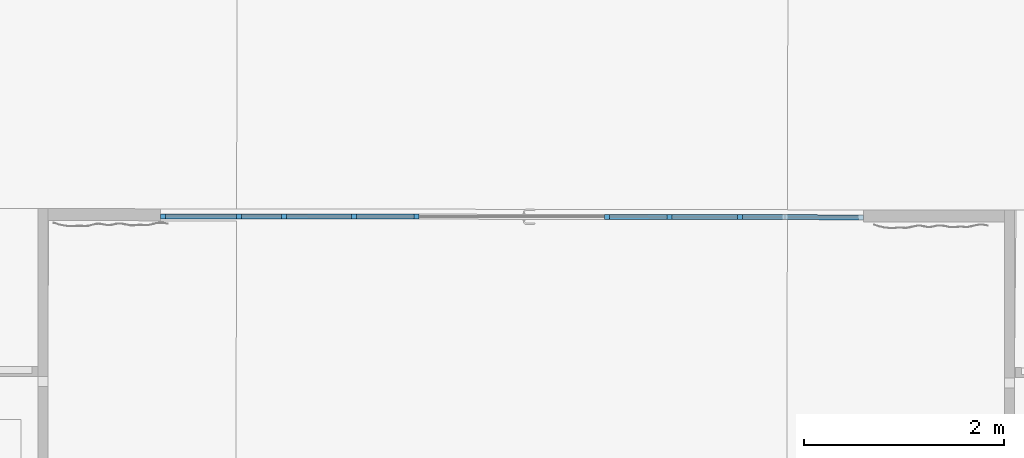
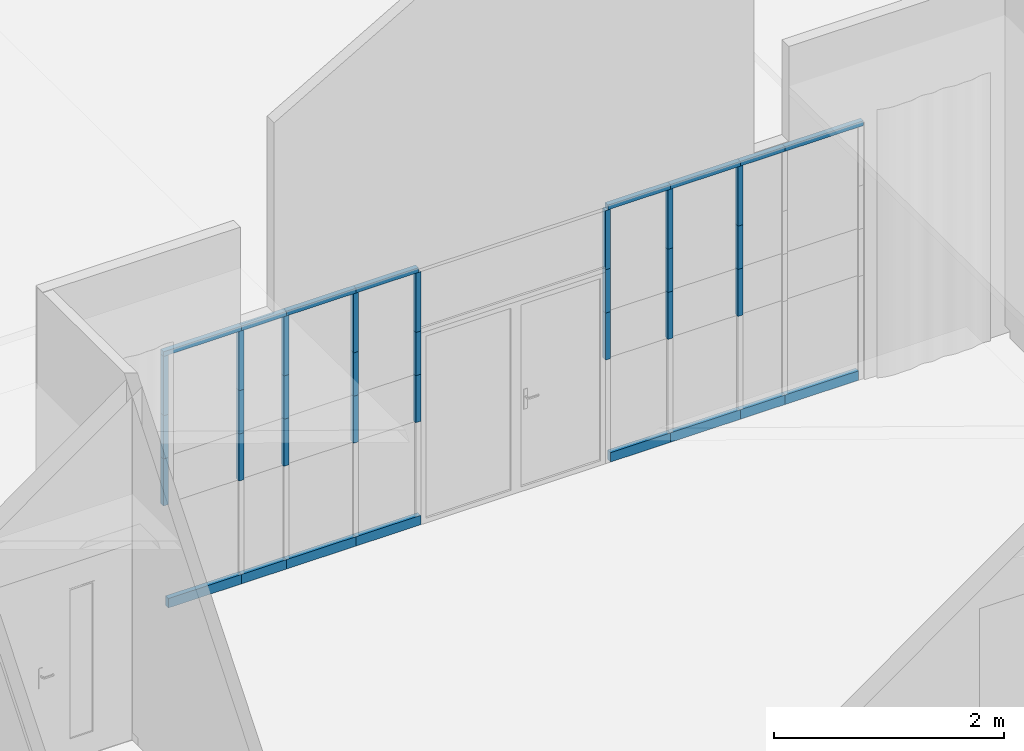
# One storey, part 3 of 43: 40 members, 1 element without a shape of its own.
"""IFC2X3 building model written with IfcOpenShell, lengths in metres."""

from ifc_helpers import new_model, entity, si_unit, converted_unit, derived_unit, direction, frame, frame_2d, origin, origin_2d_with_axis, place, context, subcontext, project, spatial, rectangle, extrude, source, transform, mapped, material, type_object, type_shapes, element, aggregate, save


model = new_model("IFC2X3")

# Units and contexts
model_context = context("Model", 3, precision=1e-05, world=origin(), true_north=direction((6.123233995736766e-17, 1.0)))
body_context = subcontext(model_context, "Body", "Model", "MODEL_VIEW")
ifc_project = project(units=[si_unit("LENGTHUNIT", "METRE"), si_unit("AREAUNIT", "SQUARE_METRE"), converted_unit("PLANEANGLEUNIT", "DEGREE", entity("IfcPlaneAngleMeasure", 0.017453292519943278), si_unit("PLANEANGLEUNIT", "RADIAN"), dimensions=[0, 0, 0, 0, 0, 0, 0]), derived_unit("THERMALTRANSMITTANCEUNIT", [(si_unit("MASSUNIT", "GRAM", prefix="KILO"), 1), (si_unit("THERMODYNAMICTEMPERATUREUNIT", "KELVIN"), -1), (si_unit("TIMEUNIT", "SECOND"), -3)])], contexts=[model_context])

# Site, building, storey
site_placement = place(None, frame((1253.6752467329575, 2072.143113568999, 91.49999999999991), z_axis=(0.0, 0.0, 1.0), x_axis=(0.7237211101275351, 0.6900925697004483, 0.0)))
site = spatial("IfcSite", under=ifc_project, at=site_placement, Name="Surface", CompositionType="ELEMENT")
building_placement = place(site_placement, origin())
building = spatial("IfcBuilding", under=site, at=building_placement, CompositionType="ELEMENT")
storey_placement = place(building_placement, frame((0.0, 0.0, -4.629999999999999)))
storey = spatial("IfcBuildingStorey", under=building, at=storey_placement, Name="rez de rue -1.10m", CompositionType="ELEMENT", Elevation=-4.629999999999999)

# Curtain wall, members
curtain_wall_type = type_object("IfcCurtainWallType", Name="Mur-rideau:Menuiserie Int", PredefinedType="NOTDEFINED")
curtain_wall_placement = place(storey_placement, frame((0.0, 0.0, 4.629999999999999)))
curtain_wall = element("IfcCurtainWall", 1, at=curtain_wall_placement, inside=storey, type_object=curtain_wall_type, Name="Mur-rideau:Menuiserie Int", ObjectType="Mur-rideau:Menuiserie Int")
ifc_material = material(Name="OMD_Bois Men Int anthracite")
member_type_1 = type_object("IfcMemberType", Name="Meneau rectangulaire:50x50 Int anthracite", PredefinedType="MULLION", material=ifc_material)
shared_shape_1 = source(origin(), body_context, "Body", "SweptSolid", [
    extrude(rectangle(XDim=0.05, YDim=0.05000000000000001, at=origin_2d_with_axis()), frame((-0.025, 0.0, -0.7851866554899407), z_axis=(0.0, 0.0, 1.0), x_axis=(-1.0, 0.0, 0.0)), (0.0, 0.0, 1.0), 0.7851866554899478),
])
type_shapes(member_type_1, [shared_shape_1])
member_1_placement = place(curtain_wall_placement, frame((170.57182962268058, 1.8775533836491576, -1.8899999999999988), z_axis=(-0.7227070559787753, 0.6911544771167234, 0.0), x_axis=(0.0, 0.0, 1.0)))
member_1 = element("IfcMember", 2, at=member_1_placement, type_object=member_type_1, material=ifc_material, Name="Meneau rectangulaire:50x50 Int anthracite", ObjectType="Meneau rectangulaire:50x50 Int anthracite", context=body_context, shape_type="MappedRepresentation", body=[
    mapped(shared_shape_1, transform((0.0, 0.0, 0.0), scale=1.0)),
])
member_type_2 = type_object("IfcMemberType", Name="Meneau rectangulaire:HT 100x50 Int anthracite 2", PredefinedType="MULLION", material=ifc_material)
shared_shape_2 = source(origin(), body_context, "Body", "SweptSolid", [
    extrude(rectangle(XDim=0.09999999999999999, YDim=0.05, at=origin_2d_with_axis()), frame((-0.049999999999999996, 0.0, -0.7365193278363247), z_axis=(0.0, 0.0, 1.0), x_axis=(-1.0, 0.0, 0.0)), (0.0, 0.0, 1.0), 0.7365193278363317),
])
type_shapes(member_type_2, [shared_shape_2])
member_2_placement = place(curtain_wall_placement, frame((175.61747507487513, -2.947804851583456, -4.629999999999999), z_axis=(0.7227070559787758, -0.6911544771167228, 0.0), x_axis=(0.0, 0.0, -1.0)))
member_2 = element("IfcMember", 3, at=member_2_placement, type_object=member_type_2, material=ifc_material, Name="Meneau rectangulaire:HT 100x50 Int anthracite 2", ObjectType="Meneau rectangulaire:HT 100x50 Int anthracite 2", context=body_context, shape_type="MappedRepresentation", body=[
    mapped(shared_shape_2, transform((0.0, 0.0, 0.0), scale=1.0)),
])
member_type_3 = type_object("IfcMemberType", Name="Meneau rectangulaire:50x50 Int anthracite", PredefinedType="MULLION", material=ifc_material)
shared_shape_3 = source(origin(), body_context, "Body", "SweptSolid", [
    extrude(rectangle(XDim=0.05, YDim=0.05000000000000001, at=origin_2d_with_axis()), frame((-0.025, 0.0, -0.45000032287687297), z_axis=(0.0, 0.0, 1.0), x_axis=(-1.0, 0.0, 0.0)), (0.0, 0.0, 1.0), 0.45000032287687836),
])
type_shapes(member_type_3, [shared_shape_3])
member_3_placement = place(curtain_wall_placement, frame((171.13928955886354, 1.334868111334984, -1.8899999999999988), z_axis=(-0.7227070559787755, 0.6911544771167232, 0.0), x_axis=(0.0, 0.0, 1.0)))
member_3 = element("IfcMember", 4, at=member_3_placement, type_object=member_type_3, material=ifc_material, Name="Meneau rectangulaire:50x50 Int anthracite", ObjectType="Meneau rectangulaire:50x50 Int anthracite", context=body_context, shape_type="MappedRepresentation", body=[
    mapped(shared_shape_3, transform((0.0, 0.0, 0.0), scale=1.0)),
])
member_4_placement = place(curtain_wall_placement, frame((174.75993798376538, -2.1277068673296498, -1.8899999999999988), z_axis=(-0.7227070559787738, 0.6911544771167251, 0.0), x_axis=(0.0, 0.0, 1.0)))
member_4 = element("IfcMember", 5, at=member_4_placement, type_object=member_type_3, material=ifc_material, Name="Meneau rectangulaire:50x50 Int anthracite", ObjectType="Meneau rectangulaire:50x50 Int anthracite", context=body_context, shape_type="MappedRepresentation", body=[
    mapped(shared_shape_3, transform((0.0, 0.0, 0.0), scale=1.0)),
])
member_type_4 = type_object("IfcMemberType", Name="Meneau rectangulaire:HT 100x50 Int anthracite 2", PredefinedType="MULLION", material=ifc_material)
shared_shape_4 = source(origin(), body_context, "Body", "SweptSolid", [
    extrude(rectangle(XDim=0.09999999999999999, YDim=0.05, at=origin_2d_with_axis()), frame((-0.049999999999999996, 0.0, -0.7351866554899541), z_axis=(0.0, 0.0, 1.0), x_axis=(-1.0, 0.0, 0.0)), (0.0, 0.0, 1.0), 0.7351866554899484),
])
type_shapes(member_type_4, [shared_shape_4])
member_5_placement = place(curtain_wall_placement, frame((171.13928955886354, 1.334868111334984, -4.629999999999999), z_axis=(0.7227070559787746, -0.6911544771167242, 0.0), x_axis=(0.0, 0.0, -1.0)))
member_5 = element("IfcMember", 6, at=member_5_placement, type_object=member_type_4, material=ifc_material, Name="Meneau rectangulaire:HT 100x50 Int anthracite 2", ObjectType="Meneau rectangulaire:HT 100x50 Int anthracite 2", context=body_context, shape_type="MappedRepresentation", body=[
    mapped(shared_shape_4, transform((0.0, 0.0, 0.0), scale=1.0)),
])
member_type_5 = type_object("IfcMemberType", Name="Meneau rectangulaire:HT 100x50 Int anthracite 2", PredefinedType="MULLION", material=ifc_material)
shared_shape_5 = source(origin(), body_context, "Body", "SweptSolid", [
    extrude(rectangle(XDim=0.09999999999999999, YDim=0.05, at=origin_2d_with_axis()), frame((-0.049999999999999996, 0.0, -0.45000032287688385), z_axis=(0.0, 0.0, 1.0), x_axis=(-1.0, 0.0, 0.0)), (0.0, 0.0, 1.0), 0.45000032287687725),
])
type_shapes(member_type_5, [shared_shape_5])
member_6_placement = place(curtain_wall_placement, frame((171.4645079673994, 1.0238483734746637, -4.629999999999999), z_axis=(0.7227070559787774, -0.6911544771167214, 0.0), x_axis=(0.0, 0.0, -1.0)))
member_6 = element("IfcMember", 7, at=member_6_placement, type_object=member_type_5, material=ifc_material, Name="Meneau rectangulaire:HT 100x50 Int anthracite 2", ObjectType="Meneau rectangulaire:HT 100x50 Int anthracite 2", context=body_context, shape_type="MappedRepresentation", body=[
    mapped(shared_shape_5, transform((0.0, 0.0, 0.0), scale=1.0)),
])
member_7_placement = place(curtain_wall_placement, frame((175.0851873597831, -2.438756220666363, -4.629999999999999), z_axis=(0.7227070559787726, -0.6911544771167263, 0.0), x_axis=(0.0, 0.0, -1.0)))
member_7 = element("IfcMember", 8, at=member_7_placement, type_object=member_type_5, material=ifc_material, Name="Meneau rectangulaire:HT 100x50 Int anthracite 2", ObjectType="Meneau rectangulaire:HT 100x50 Int anthracite 2", context=body_context, shape_type="MappedRepresentation", body=[
    mapped(shared_shape_5, transform((0.0, 0.0, 0.0), scale=1.0)),
])
member_type_6 = type_object("IfcMemberType", Name="Meneau rectangulaire:HT 100x50 Int anthracite 2", PredefinedType="MULLION", material=ifc_material)
shared_shape_6 = source(origin(), body_context, "Body", "SweptSolid", [
    extrude(rectangle(XDim=0.09999999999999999, YDim=0.05, at=origin_2d_with_axis()), frame((-0.049999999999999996, 0.0, -0.7034375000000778), z_axis=(0.0, 0.0, 1.0), x_axis=(-1.0, 0.0, 0.0)), (0.0, 0.0, 1.0), 0.7034375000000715),
])
type_shapes(member_type_6, [shared_shape_6])
member_8_placement = place(curtain_wall_placement, frame((174.75993798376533, -2.1277068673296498, -4.629999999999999), z_axis=(0.722707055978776, -0.6911544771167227, 0.0), x_axis=(0.0, 0.0, -1.0)))
member_8 = element("IfcMember", 9, at=member_8_placement, type_object=member_type_6, material=ifc_material, Name="Meneau rectangulaire:HT 100x50 Int anthracite 2", ObjectType="Meneau rectangulaire:HT 100x50 Int anthracite 2", context=body_context, shape_type="MappedRepresentation", body=[
    mapped(shared_shape_6, transform((0.0, 0.0, 0.0), scale=1.0)),
])
member_type_7 = type_object("IfcMemberType", Name="Meneau rectangulaire:50x50 Int anthracite", PredefinedType="MULLION", material=ifc_material)
shared_shape_7 = source(origin(), body_context, "Body", "SweptSolid", [
    extrude(rectangle(XDim=0.05, YDim=0.05, at=origin_2d_with_axis()), frame((-0.025, 0.0, -0.786519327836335), z_axis=(0.0, 0.0, 1.0), x_axis=(-1.0, 0.0, 0.0)), (0.0, 0.0, 1.0), 0.786519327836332),
])
type_shapes(member_type_7, [shared_shape_7])
member_9_placement = place(curtain_wall_placement, frame((175.0851873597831, -2.438756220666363, -1.8899999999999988), z_axis=(-0.7227070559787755, 0.6911544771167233, 0.0), x_axis=(0.0, 0.0, 1.0)))
member_9 = element("IfcMember", 10, at=member_9_placement, type_object=member_type_7, material=ifc_material, Name="Meneau rectangulaire:50x50 Int anthracite", ObjectType="Meneau rectangulaire:50x50 Int anthracite", context=body_context, shape_type="MappedRepresentation", body=[
    mapped(shared_shape_7, transform((0.0, 0.0, 0.0), scale=1.0)),
])
member_type_8 = type_object("IfcMemberType", Name="Meneau rectangulaire:50x50 Int anthracite", PredefinedType="MULLION", material=ifc_material)
shared_shape_8 = source(origin(), body_context, "Body", "SweptSolid", [
    extrude(rectangle(XDim=0.05, YDim=0.05000000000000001, at=origin_2d_with_axis()), frame((-0.025, 0.0, -0.7034375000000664), z_axis=(0.0, 0.0, 1.0), x_axis=(-1.0, 0.0, 0.0)), (0.0, 0.0, 1.0), 0.7034375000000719),
])
type_shapes(member_type_8, [shared_shape_8])
member_10_placement = place(curtain_wall_placement, frame((174.25155873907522, -1.6415228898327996, -1.8899999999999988), z_axis=(-0.7227070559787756, 0.6911544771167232, 0.0), x_axis=(0.0, 0.0, 1.0)))
member_10 = element("IfcMember", 11, at=member_10_placement, type_object=member_type_8, material=ifc_material, Name="Meneau rectangulaire:50x50 Int anthracite", ObjectType="Meneau rectangulaire:50x50 Int anthracite", context=body_context, shape_type="MappedRepresentation", body=[
    mapped(shared_shape_8, transform((0.0, 0.0, 0.0), scale=1.0)),
])
member_type_9 = type_object("IfcMemberType", Name="Meneau rectangulaire:HT 100x50 Int anthracite 2", PredefinedType="MULLION", material=ifc_material)
shared_shape_9 = source(origin(), body_context, "Body", "SweptSolid", [
    extrude(rectangle(XDim=0.09999999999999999, YDim=0.05, at=origin_2d_with_axis()), frame((-0.049999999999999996, 0.0, -0.5999999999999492), z_axis=(0.0, 0.0, 1.0), x_axis=(-1.0, 0.0, 0.0)), (0.0, 0.0, 1.0), 0.5999999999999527),
])
type_shapes(member_type_9, [shared_shape_9])
member_11_placement = place(curtain_wall_placement, frame((174.25155873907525, -1.6415228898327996, -4.629999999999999), z_axis=(0.7227070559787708, -0.6911544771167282, 0.0), x_axis=(0.0, 0.0, -1.0)))
member_11 = element("IfcMember", 12, at=member_11_placement, type_object=member_type_9, material=ifc_material, Name="Meneau rectangulaire:HT 100x50 Int anthracite 2", ObjectType="Meneau rectangulaire:HT 100x50 Int anthracite 2", context=body_context, shape_type="MappedRepresentation", body=[
    mapped(shared_shape_9, transform((0.0, 0.0, 0.0), scale=1.0)),
])
member_type_10 = type_object("IfcMemberType", Name="Meneau rectangulaire:50x50 Int anthracite", PredefinedType="MULLION", material=ifc_material)
shared_shape_10 = source(origin(), body_context, "Body", "SweptSolid", [
    extrude(rectangle(XDim=0.05, YDim=0.05, at=origin_2d_with_axis()), frame((-0.025, 0.0, -0.6249999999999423), z_axis=(0.0, 0.0, 1.0), x_axis=(-1.0, 0.0, 0.0)), (0.0, 0.0, 1.0), 0.6249999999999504),
])
type_shapes(member_type_10, [shared_shape_10])
member_12_placement = place(curtain_wall_placement, frame((173.79986682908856, -1.2095513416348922, -1.8899999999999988), z_axis=(-0.7227070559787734, 0.6911544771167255, 0.0), x_axis=(0.0, 0.0, 1.0)))
member_12 = element("IfcMember", 13, at=member_12_placement, type_object=member_type_10, material=ifc_material, Name="Meneau rectangulaire:50x50 Int anthracite", ObjectType="Meneau rectangulaire:50x50 Int anthracite", context=body_context, shape_type="MappedRepresentation", body=[
    mapped(shared_shape_10, transform((0.0, 0.0, 0.0), scale=1.0)),
])
member_13_placement = place(curtain_wall_placement, frame((171.97051459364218, 0.5399334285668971, -1.8899999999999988), z_axis=(-0.7227070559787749, 0.6911544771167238, 0.0), x_axis=(0.0, 0.0, 1.0)))
member_13 = element("IfcMember", 14, at=member_13_placement, type_object=member_type_10, material=ifc_material, Name="Meneau rectangulaire:50x50 Int anthracite", ObjectType="Meneau rectangulaire:50x50 Int anthracite", context=body_context, shape_type="MappedRepresentation", body=[
    mapped(shared_shape_10, transform((0.0, 0.0, 0.0), scale=1.0)),
])
member_type_11 = type_object("IfcMemberType", Name="Meneau rectangulaire:HT 100x50 Int anthracite 2", PredefinedType="MULLION", material=ifc_material)
shared_shape_11 = source(origin(), body_context, "Body", "SweptSolid", [
    extrude(rectangle(XDim=0.09999999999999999, YDim=0.05, at=origin_2d_with_axis()), frame((-0.049999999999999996, 0.0, -0.6499999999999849), z_axis=(0.0, 0.0, 1.0), x_axis=(-1.0, 0.0, 0.0)), (0.0, 0.0, 1.0), 0.6499999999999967),
])
type_shapes(member_type_11, [shared_shape_11])
member_14_placement = place(curtain_wall_placement, frame((172.44027418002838, 0.09068301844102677, -4.629999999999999), z_axis=(0.7227070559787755, -0.6911544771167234, 0.0), x_axis=(0.0, 0.0, -1.0)))
member_14 = element("IfcMember", 15, at=member_14_placement, type_object=member_type_11, material=ifc_material, Name="Meneau rectangulaire:HT 100x50 Int anthracite 2", ObjectType="Meneau rectangulaire:HT 100x50 Int anthracite 2", context=body_context, shape_type="MappedRepresentation", body=[
    mapped(shared_shape_11, transform((0.0, 0.0, 0.0), scale=1.0)),
])
member_type_12 = type_object("IfcMemberType", Name="Meneau rectangulaire:50x50 Int anthracite", PredefinedType="MULLION", material=ifc_material)
shared_shape_12 = source(origin(), body_context, "Body", "SweptSolid", [
    extrude(rectangle(XDim=0.05, YDim=0.05000000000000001, at=origin_2d_with_axis()), frame((-0.025, 0.0, -0.7001545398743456), z_axis=(0.0, 0.0, 1.0), x_axis=(-1.0, 0.0, 0.0)), (0.0, 0.0, 1.0), 0.7001545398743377),
])
type_shapes(member_type_12, [shared_shape_12])
member_15_placement = place(curtain_wall_placement, frame((171.4645079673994, 1.0238483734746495, -1.8899999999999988), z_axis=(-0.7227070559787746, 0.6911544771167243, 0.0), x_axis=(0.0, 0.0, 1.0)))
member_15 = element("IfcMember", 16, at=member_15_placement, type_object=member_type_12, material=ifc_material, Name="Meneau rectangulaire:50x50 Int anthracite", ObjectType="Meneau rectangulaire:50x50 Int anthracite", context=body_context, shape_type="MappedRepresentation", body=[
    mapped(shared_shape_12, transform((0.0, 0.0, 0.0), scale=1.0)),
])
member_type_13 = type_object("IfcMemberType", Name="Meneau rectangulaire:HT 100x50 Int anthracite 2", PredefinedType="MULLION", material=ifc_material)
shared_shape_13 = source(origin(), body_context, "Body", "SweptSolid", [
    extrude(rectangle(XDim=0.09999999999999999, YDim=0.05, at=origin_2d_with_axis()), frame((-0.049999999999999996, 0.0, -0.7001545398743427), z_axis=(0.0, 0.0, 1.0), x_axis=(-1.0, 0.0, 0.0)), (0.0, 0.0, 1.0), 0.7001545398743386),
])
type_shapes(member_type_13, [shared_shape_13])
member_16_placement = place(curtain_wall_placement, frame((171.97051459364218, 0.5399334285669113, -4.629999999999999), z_axis=(0.7227070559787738, -0.6911544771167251, 0.0), x_axis=(0.0, 0.0, -1.0)))
member_16 = element("IfcMember", 17, at=member_16_placement, type_object=member_type_13, material=ifc_material, Name="Meneau rectangulaire:HT 100x50 Int anthracite 2", ObjectType="Meneau rectangulaire:HT 100x50 Int anthracite 2", context=body_context, shape_type="MappedRepresentation", body=[
    mapped(shared_shape_13, transform((0.0, 0.0, 0.0), scale=1.0)),
])
member_type_14 = type_object("IfcMemberType", Name="Meneau rectangulaire:50x50 Int anthracite", PredefinedType="MULLION", material=ifc_material)
shared_shape_14 = source(origin(), body_context, "Body", "SweptSolid", [
    extrude(rectangle(XDim=0.05, YDim=0.05000000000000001, at=origin_2d_with_axis()), frame((-0.025, 0.0, -0.6300000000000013), z_axis=(0.0, 0.0, 1.0), x_axis=(-1.0, 0.0, 0.0)), (0.0, 0.0, 1.0), 0.6300000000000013),
])
type_shapes(member_type_14, [shared_shape_14])
member_17_placement = place(curtain_wall_placement, frame((170.57182962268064, 1.8775533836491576, -2.57), z_axis=(0.0, 0.0, -1.0), x_axis=(-0.7227070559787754, 0.6911544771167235, 0.0)))
member_17 = element("IfcMember", 18, at=member_17_placement, type_object=member_type_14, material=ifc_material, Name="Meneau rectangulaire:50x50 Int anthracite", ObjectType="Meneau rectangulaire:50x50 Int anthracite", context=body_context, shape_type="MappedRepresentation", body=[
    mapped(shared_shape_14, transform((0.0, 0.0, 0.0), scale=1.0)),
])
member_type_15 = type_object("IfcMemberType", Name="Meneau rectangulaire:50x50 Int anthracite", PredefinedType="MULLION", material=ifc_material)
shared_shape_15 = source(origin(), body_context, "Body", "SweptSolid", [
    extrude(rectangle(XDim=0.05, YDim=0.05, at=frame_2d((0.0, 1.734723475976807e-18), x_axis=(1.0, 0.0))), frame((0.0, 0.0, -0.6300000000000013), z_axis=(0.0, 0.0, 1.0), x_axis=(-1.0, 0.0, 0.0)), (0.0, 0.0, 1.0), 0.6300000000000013),
])
type_shapes(member_type_15, [shared_shape_15])
member_18_placement = place(curtain_wall_placement, frame((171.1392895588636, 1.3348681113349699, -2.57), z_axis=(0.0, 0.0, -1.0), x_axis=(-0.7227070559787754, 0.6911544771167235, 0.0)))
member_18 = element("IfcMember", 19, at=member_18_placement, type_object=member_type_15, material=ifc_material, Name="Meneau rectangulaire:50x50 Int anthracite", ObjectType="Meneau rectangulaire:50x50 Int anthracite", context=body_context, shape_type="MappedRepresentation", body=[
    mapped(shared_shape_15, transform((0.0, 0.0, 0.0), scale=1.0)),
])
member_19_placement = place(curtain_wall_placement, frame((171.46450796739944, 1.0238483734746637, -2.57), z_axis=(0.0, 0.0, -1.0), x_axis=(-0.7227070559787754, 0.6911544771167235, 0.0)))
member_19 = element("IfcMember", 20, at=member_19_placement, type_object=member_type_15, material=ifc_material, Name="Meneau rectangulaire:50x50 Int anthracite", ObjectType="Meneau rectangulaire:50x50 Int anthracite", context=body_context, shape_type="MappedRepresentation", body=[
    mapped(shared_shape_15, transform((0.0, 0.0, 0.0), scale=1.0)),
])
member_20_placement = place(curtain_wall_placement, frame((171.9705145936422, 0.5399334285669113, -2.57), z_axis=(0.0, 0.0, -1.0), x_axis=(-0.7227070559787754, 0.6911544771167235, 0.0)))
member_20 = element("IfcMember", 21, at=member_20_placement, type_object=member_type_15, material=ifc_material, Name="Meneau rectangulaire:50x50 Int anthracite", ObjectType="Meneau rectangulaire:50x50 Int anthracite", context=body_context, shape_type="MappedRepresentation", body=[
    mapped(shared_shape_15, transform((0.0, 0.0, 0.0), scale=1.0)),
])
member_21_placement = place(curtain_wall_placement, frame((174.25155873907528, -1.6415228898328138, -2.57), z_axis=(0.0, 0.0, -1.0), x_axis=(-0.7227070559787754, 0.6911544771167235, 0.0)))
member_21 = element("IfcMember", 22, at=member_21_placement, type_object=member_type_15, material=ifc_material, Name="Meneau rectangulaire:50x50 Int anthracite", ObjectType="Meneau rectangulaire:50x50 Int anthracite", context=body_context, shape_type="MappedRepresentation", body=[
    mapped(shared_shape_15, transform((0.0, 0.0, 0.0), scale=1.0)),
])
member_22_placement = place(curtain_wall_placement, frame((174.75993798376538, -2.1277068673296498, -2.57), z_axis=(0.0, 0.0, -1.0), x_axis=(-0.7227070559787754, 0.6911544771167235, 0.0)))
member_22 = element("IfcMember", 23, at=member_22_placement, type_object=member_type_15, material=ifc_material, Name="Meneau rectangulaire:50x50 Int anthracite", ObjectType="Meneau rectangulaire:50x50 Int anthracite", context=body_context, shape_type="MappedRepresentation", body=[
    mapped(shared_shape_15, transform((0.0, 0.0, 0.0), scale=1.0)),
])
member_type_16 = type_object("IfcMemberType", Name="Meneau rectangulaire:50x50 Int anthracite", PredefinedType="MULLION", material=ifc_material)
shared_shape_16 = source(origin(), body_context, "Body", "SweptSolid", [
    extrude(rectangle(XDim=0.05, YDim=0.05, at=frame_2d((0.0, 1.734723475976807e-18), x_axis=(1.0, 0.0))), frame((0.0, 0.0, -0.6300000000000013), z_axis=(0.0, 0.0, 1.0), x_axis=(-1.0, 0.0, 0.0)), (0.0, 0.0, 1.0), 0.6300000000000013),
])
type_shapes(member_type_16, [shared_shape_16])
member_23_placement = place(curtain_wall_placement, frame((172.42220650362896, 0.10796188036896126, -2.57), z_axis=(0.0, 0.0, -1.0), x_axis=(-0.7227070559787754, 0.6911544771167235, 0.0)))
member_23 = element("IfcMember", 24, at=member_23_placement, type_object=member_type_16, material=ifc_material, Name="Meneau rectangulaire:50x50 Int anthracite", ObjectType="Meneau rectangulaire:50x50 Int anthracite", context=body_context, shape_type="MappedRepresentation", body=[
    mapped(shared_shape_16, transform((0.0, 0.0, 0.0), scale=1.0)),
])
member_24_placement = place(curtain_wall_placement, frame((173.79986682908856, -1.209551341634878, -2.57), z_axis=(0.0, 0.0, -1.0), x_axis=(-0.7227070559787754, 0.6911544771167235, 0.0)))
member_24 = element("IfcMember", 25, at=member_24_placement, type_object=member_type_16, material=ifc_material, Name="Meneau rectangulaire:50x50 Int anthracite", ObjectType="Meneau rectangulaire:50x50 Int anthracite", context=body_context, shape_type="MappedRepresentation", body=[
    mapped(shared_shape_16, transform((0.0, 0.0, 0.0), scale=1.0)),
])
member_type_17 = type_object("IfcMemberType", Name="Meneau rectangulaire:50x50 Int anthracite", PredefinedType="MULLION", material=ifc_material)
shared_shape_17 = source(origin(), body_context, "Body", "SweptSolid", [
    extrude(rectangle(XDim=0.05, YDim=0.05, at=origin_2d_with_axis()), frame((-0.025, 0.0, -0.4999999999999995), z_axis=(0.0, 0.0, 1.0), x_axis=(-1.0, 0.0, 0.0)), (0.0, 0.0, 1.0), 0.4999999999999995),
])
type_shapes(member_type_17, [shared_shape_17])
member_25_placement = place(curtain_wall_placement, frame((170.57182962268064, 1.8775533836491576, -3.5299999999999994), z_axis=(0.0, 0.0, -1.0), x_axis=(-0.7227070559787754, 0.6911544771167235, 0.0)))
member_25 = element("IfcMember", 26, at=member_25_placement, type_object=member_type_17, material=ifc_material, Name="Meneau rectangulaire:50x50 Int anthracite", ObjectType="Meneau rectangulaire:50x50 Int anthracite", context=body_context, shape_type="MappedRepresentation", body=[
    mapped(shared_shape_17, transform((0.0, 0.0, 0.0), scale=1.0)),
])
member_type_18 = type_object("IfcMemberType", Name="Meneau rectangulaire:50x50 Int anthracite", PredefinedType="MULLION", material=ifc_material)
shared_shape_18 = source(origin(), body_context, "Body", "SweptSolid", [
    extrude(rectangle(XDim=0.05, YDim=0.05, at=origin_2d_with_axis()), frame((0.0, 0.0, -0.4999999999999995), z_axis=(0.0, 0.0, 1.0), x_axis=(-1.0, 0.0, 0.0)), (0.0, 0.0, 1.0), 0.4999999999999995),
])
type_shapes(member_type_18, [shared_shape_18])
member_26_placement = place(curtain_wall_placement, frame((171.1392895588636, 1.3348681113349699, -3.5299999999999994), z_axis=(0.0, 0.0, -1.0), x_axis=(-0.7227070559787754, 0.6911544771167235, 0.0)))
member_26 = element("IfcMember", 27, at=member_26_placement, type_object=member_type_18, material=ifc_material, Name="Meneau rectangulaire:50x50 Int anthracite", ObjectType="Meneau rectangulaire:50x50 Int anthracite", context=body_context, shape_type="MappedRepresentation", body=[
    mapped(shared_shape_18, transform((0.0, 0.0, 0.0), scale=1.0)),
])
member_27_placement = place(curtain_wall_placement, frame((171.46450796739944, 1.0238483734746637, -3.5299999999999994), z_axis=(0.0, 0.0, -1.0), x_axis=(-0.7227070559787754, 0.6911544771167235, 0.0)))
member_27 = element("IfcMember", 28, at=member_27_placement, type_object=member_type_18, material=ifc_material, Name="Meneau rectangulaire:50x50 Int anthracite", ObjectType="Meneau rectangulaire:50x50 Int anthracite", context=body_context, shape_type="MappedRepresentation", body=[
    mapped(shared_shape_18, transform((0.0, 0.0, 0.0), scale=1.0)),
])
member_28_placement = place(curtain_wall_placement, frame((171.9705145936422, 0.5399334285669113, -3.5299999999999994), z_axis=(0.0, 0.0, -1.0), x_axis=(-0.7227070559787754, 0.6911544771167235, 0.0)))
member_28 = element("IfcMember", 29, at=member_28_placement, type_object=member_type_18, material=ifc_material, Name="Meneau rectangulaire:50x50 Int anthracite", ObjectType="Meneau rectangulaire:50x50 Int anthracite", context=body_context, shape_type="MappedRepresentation", body=[
    mapped(shared_shape_18, transform((0.0, 0.0, 0.0), scale=1.0)),
])
member_29_placement = place(curtain_wall_placement, frame((172.42220650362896, 0.10796188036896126, -3.5299999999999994), z_axis=(0.0, 0.0, -1.0), x_axis=(-0.7227070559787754, 0.6911544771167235, 0.0)))
member_29 = element("IfcMember", 30, at=member_29_placement, type_object=member_type_18, material=ifc_material, Name="Meneau rectangulaire:50x50 Int anthracite", ObjectType="Meneau rectangulaire:50x50 Int anthracite", context=body_context, shape_type="MappedRepresentation", body=[
    mapped(shared_shape_18, transform((0.0, 0.0, 0.0), scale=1.0)),
])
member_30_placement = place(curtain_wall_placement, frame((173.79986682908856, -1.209551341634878, -3.5299999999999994), z_axis=(0.0, 0.0, -1.0), x_axis=(-0.7227070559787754, 0.6911544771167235, 0.0)))
member_30 = element("IfcMember", 31, at=member_30_placement, type_object=member_type_18, material=ifc_material, Name="Meneau rectangulaire:50x50 Int anthracite", ObjectType="Meneau rectangulaire:50x50 Int anthracite", context=body_context, shape_type="MappedRepresentation", body=[
    mapped(shared_shape_18, transform((0.0, 0.0, 0.0), scale=1.0)),
])
member_31_placement = place(curtain_wall_placement, frame((174.25155873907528, -1.6415228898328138, -3.5299999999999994), z_axis=(0.0, 0.0, -1.0), x_axis=(-0.7227070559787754, 0.6911544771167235, 0.0)))
member_31 = element("IfcMember", 32, at=member_31_placement, type_object=member_type_18, material=ifc_material, Name="Meneau rectangulaire:50x50 Int anthracite", ObjectType="Meneau rectangulaire:50x50 Int anthracite", context=body_context, shape_type="MappedRepresentation", body=[
    mapped(shared_shape_18, transform((0.0, 0.0, 0.0), scale=1.0)),
])
member_32_placement = place(curtain_wall_placement, frame((174.75993798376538, -2.1277068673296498, -3.5299999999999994), z_axis=(0.0, 0.0, -1.0), x_axis=(-0.7227070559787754, 0.6911544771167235, 0.0)))
member_32 = element("IfcMember", 33, at=member_32_placement, type_object=member_type_18, material=ifc_material, Name="Meneau rectangulaire:50x50 Int anthracite", ObjectType="Meneau rectangulaire:50x50 Int anthracite", context=body_context, shape_type="MappedRepresentation", body=[
    mapped(shared_shape_18, transform((0.0, 0.0, 0.0), scale=1.0)),
])
member_type_19 = type_object("IfcMemberType", Name="Meneau rectangulaire:50x50 Int anthracite", PredefinedType="MULLION", material=ifc_material)
shared_shape_19 = source(origin(), body_context, "Body", "SweptSolid", [
    extrude(rectangle(XDim=0.05, YDim=0.05, at=origin_2d_with_axis()), frame((-0.025, 0.0, -0.4599999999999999), z_axis=(0.0, 0.0, 1.0), x_axis=(-1.0, 0.0, 0.0)), (0.0, 0.0, 1.0), 0.4599999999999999),
])
type_shapes(member_type_19, [shared_shape_19])
member_33_placement = place(curtain_wall_placement, frame((170.57182962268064, 1.8775533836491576, -3.0300000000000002), z_axis=(0.0, 0.0, -1.0), x_axis=(-0.7227070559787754, 0.6911544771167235, 0.0)))
member_33 = element("IfcMember", 34, at=member_33_placement, type_object=member_type_19, material=ifc_material, Name="Meneau rectangulaire:50x50 Int anthracite", ObjectType="Meneau rectangulaire:50x50 Int anthracite", context=body_context, shape_type="MappedRepresentation", body=[
    mapped(shared_shape_19, transform((0.0, 0.0, 0.0), scale=1.0)),
])
member_type_20 = type_object("IfcMemberType", Name="Meneau rectangulaire:50x50 Int anthracite", PredefinedType="MULLION", material=ifc_material)
shared_shape_20 = source(origin(), body_context, "Body", "SweptSolid", [
    extrude(rectangle(XDim=0.05, YDim=0.05, at=origin_2d_with_axis()), frame((0.0, 0.0, -0.4599999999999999), z_axis=(0.0, 0.0, 1.0), x_axis=(-1.0, 0.0, 0.0)), (0.0, 0.0, 1.0), 0.4599999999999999),
])
type_shapes(member_type_20, [shared_shape_20])
member_34_placement = place(curtain_wall_placement, frame((171.1392895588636, 1.3348681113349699, -3.0300000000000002), z_axis=(0.0, 0.0, -1.0), x_axis=(-0.7227070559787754, 0.6911544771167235, 0.0)))
member_34 = element("IfcMember", 35, at=member_34_placement, type_object=member_type_20, material=ifc_material, Name="Meneau rectangulaire:50x50 Int anthracite", ObjectType="Meneau rectangulaire:50x50 Int anthracite", context=body_context, shape_type="MappedRepresentation", body=[
    mapped(shared_shape_20, transform((0.0, 0.0, 0.0), scale=1.0)),
])
member_35_placement = place(curtain_wall_placement, frame((171.46450796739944, 1.0238483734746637, -3.0300000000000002), z_axis=(0.0, 0.0, -1.0), x_axis=(-0.7227070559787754, 0.6911544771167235, 0.0)))
member_35 = element("IfcMember", 36, at=member_35_placement, type_object=member_type_20, material=ifc_material, Name="Meneau rectangulaire:50x50 Int anthracite", ObjectType="Meneau rectangulaire:50x50 Int anthracite", context=body_context, shape_type="MappedRepresentation", body=[
    mapped(shared_shape_20, transform((0.0, 0.0, 0.0), scale=1.0)),
])
member_36_placement = place(curtain_wall_placement, frame((171.9705145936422, 0.5399334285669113, -3.0300000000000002), z_axis=(0.0, 0.0, -1.0), x_axis=(-0.7227070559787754, 0.6911544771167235, 0.0)))
member_36 = element("IfcMember", 37, at=member_36_placement, type_object=member_type_20, material=ifc_material, Name="Meneau rectangulaire:50x50 Int anthracite", ObjectType="Meneau rectangulaire:50x50 Int anthracite", context=body_context, shape_type="MappedRepresentation", body=[
    mapped(shared_shape_20, transform((0.0, 0.0, 0.0), scale=1.0)),
])
member_37_placement = place(curtain_wall_placement, frame((174.25155873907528, -1.6415228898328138, -3.0300000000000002), z_axis=(0.0, 0.0, -1.0), x_axis=(-0.7227070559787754, 0.6911544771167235, 0.0)))
member_37 = element("IfcMember", 38, at=member_37_placement, type_object=member_type_20, material=ifc_material, Name="Meneau rectangulaire:50x50 Int anthracite", ObjectType="Meneau rectangulaire:50x50 Int anthracite", context=body_context, shape_type="MappedRepresentation", body=[
    mapped(shared_shape_20, transform((0.0, 0.0, 0.0), scale=1.0)),
])
member_38_placement = place(curtain_wall_placement, frame((174.75993798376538, -2.1277068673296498, -3.0300000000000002), z_axis=(0.0, 0.0, -1.0), x_axis=(-0.7227070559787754, 0.6911544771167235, 0.0)))
member_38 = element("IfcMember", 39, at=member_38_placement, type_object=member_type_20, material=ifc_material, Name="Meneau rectangulaire:50x50 Int anthracite", ObjectType="Meneau rectangulaire:50x50 Int anthracite", context=body_context, shape_type="MappedRepresentation", body=[
    mapped(shared_shape_20, transform((0.0, 0.0, 0.0), scale=1.0)),
])
member_type_21 = type_object("IfcMemberType", Name="Meneau rectangulaire:50x50 Int anthracite", PredefinedType="MULLION", material=ifc_material)
shared_shape_21 = source(origin(), body_context, "Body", "SweptSolid", [
    extrude(rectangle(XDim=0.05, YDim=0.05, at=frame_2d((0.0, 1.734723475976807e-18), x_axis=(1.0, 0.0))), frame((0.0, 0.0, -0.4599999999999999), z_axis=(0.0, 0.0, 1.0), x_axis=(-1.0, 0.0, 0.0)), (0.0, 0.0, 1.0), 0.4599999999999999),
])
type_shapes(member_type_21, [shared_shape_21])
member_39_placement = place(curtain_wall_placement, frame((172.42220650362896, 0.10796188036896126, -3.0300000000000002), z_axis=(0.0, 0.0, -1.0), x_axis=(-0.7227070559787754, 0.6911544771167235, 0.0)))
member_39 = element("IfcMember", 40, at=member_39_placement, type_object=member_type_21, material=ifc_material, Name="Meneau rectangulaire:50x50 Int anthracite", ObjectType="Meneau rectangulaire:50x50 Int anthracite", context=body_context, shape_type="MappedRepresentation", body=[
    mapped(shared_shape_21, transform((0.0, 0.0, 0.0), scale=1.0)),
])
member_40_placement = place(curtain_wall_placement, frame((173.79986682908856, -1.209551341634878, -3.0300000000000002), z_axis=(0.0, 0.0, -1.0), x_axis=(-0.7227070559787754, 0.6911544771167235, 0.0)))
member_40 = element("IfcMember", 41, at=member_40_placement, type_object=member_type_21, material=ifc_material, Name="Meneau rectangulaire:50x50 Int anthracite", ObjectType="Meneau rectangulaire:50x50 Int anthracite", context=body_context, shape_type="MappedRepresentation", body=[
    mapped(shared_shape_21, transform((0.0, 0.0, 0.0), scale=1.0)),
])
aggregate(curtain_wall, [member_1, member_2, member_3, member_5, member_6, member_4, member_8, member_9, member_7, member_10, member_11, member_12, member_14, member_13, member_15, member_16, member_17, member_18, member_19, member_20, member_23, member_24, member_21, member_22, member_25, member_26, member_27, member_28, member_29, member_30, member_31, member_32, member_33, member_34, member_35, member_36, member_39, member_40, member_37, member_38])

save(model, "model.ifc")
